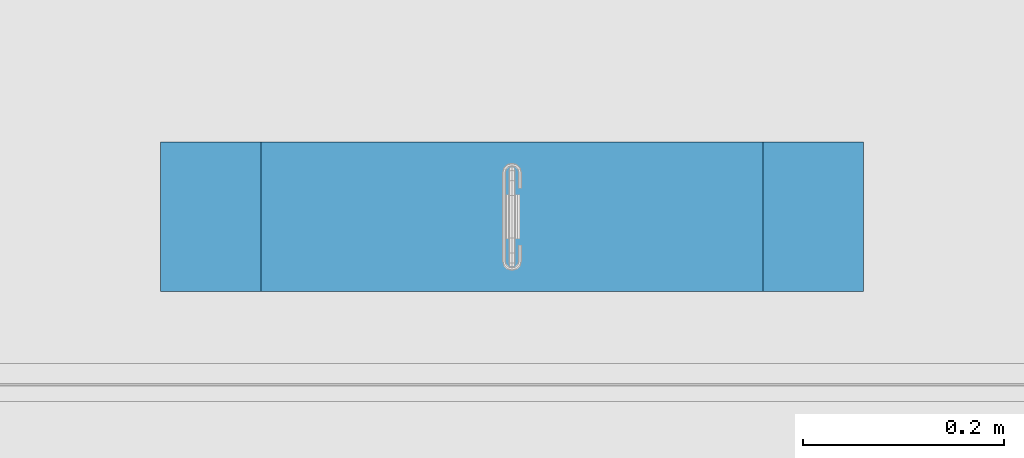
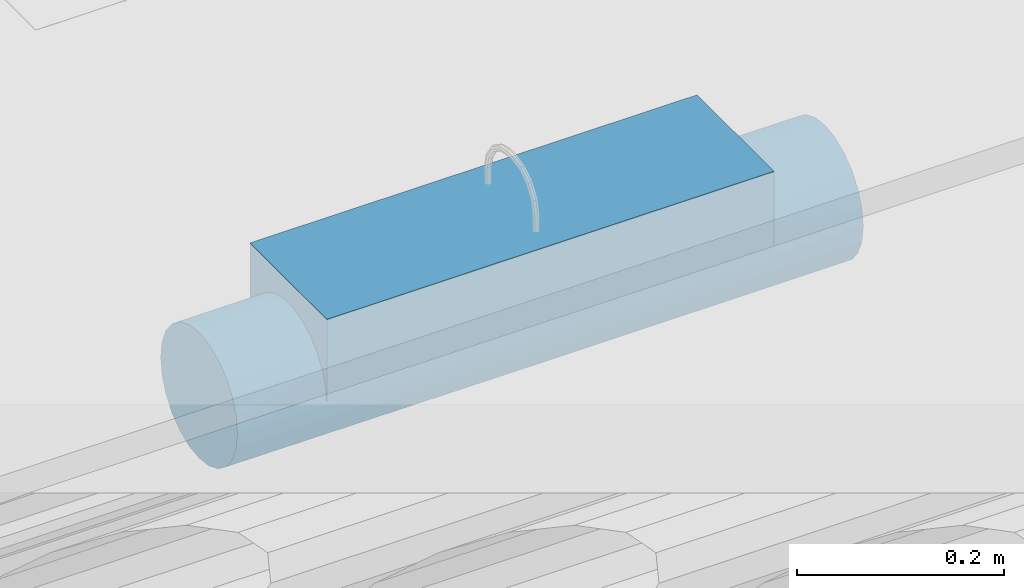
# One storey, part 154 of 230: 1 beam.
"""IFC4X3_ADD2 building model written with IfcOpenShell, lengths in millimetres."""

from ifc_helpers import new_model, si_unit, direction, origin_with_axes, place, context, subcontext, project, spatial, polygons, element, save


model = new_model("IFC4X3_ADD2")

# Units and contexts
model_context = context("Model", 3, precision=1e-05, world=origin_with_axes(), true_north=direction((0.0, 1.0)))
body_context = subcontext(model_context, "Body", "Model", "MODEL_VIEW")
ifc_project = project(units=[si_unit("LENGTHUNIT", "METRE", prefix="MILLI"), si_unit("AREAUNIT", "SQUARE_METRE"), si_unit("VOLUMEUNIT", "CUBIC_METRE"), si_unit("PLANEANGLEUNIT", "RADIAN"), si_unit("TIMEUNIT", "SECOND"), si_unit("MASSUNIT", "GRAM")], contexts=[model_context])

# Site, building, storey
site_placement = place(None, origin_with_axes())
site = spatial("IfcSite", under=ifc_project, at=site_placement, Name="Site", CompositionType="ELEMENT")
building_placement = place(site_placement, origin_with_axes())
building = spatial("IfcBuilding", under=site, at=building_placement, Name="IFC Building Story")
storey_placement = place(building_placement, origin_with_axes())
storey = spatial("IfcBuildingStorey", under=building, at=storey_placement, Name="ETAGE 00 (0)", Elevation=0.0)

# Beam
beam_placement = place(storey_placement, origin_with_axes())
element("IfcBeam", 1, at=beam_placement, inside=storey, Name="ES44", ObjectType="500*149", context=body_context, shape_type="Tessellation", body=[
    polygons([(34166.189, 13927.96237108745, 4119.282015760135), (34266.189, 13928.33606303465, 4117.829011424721), (34166.189, 13930.50089702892, 4099.999996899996), (34166.189, 13920.51978961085, 4137.249996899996), (34266.189, 13921.96737190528, 4134.621871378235), (34266.189, 13898.32172160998, 4161.312294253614), (34166.189, 13908.68035222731, 4152.679452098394), (34166.189, 13893.25089702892, 4164.518889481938), (34266.189, 13882.4189617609, 4169.658706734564), (34166.189, 13875.28291588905, 4171.961470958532), (34266.189, 13911.76494883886, 4149.402633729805), (34266.189, 13930.50089702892, 4099.999993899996), (34266.189, 13864.98087993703, 4173.956807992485), (34166.189, 13856.00089702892, 4174.499996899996), (34266.189, 13847.02091412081, 4173.956807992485), (34166.189, 13836.71887816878, 4171.961470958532), (34166.189, 13818.75089702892, 4164.518889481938), (34266.189, 13829.58283229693, 4169.658706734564), (34166.189, 13791.48200444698, 4137.249996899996), (34166.189, 13784.03942297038, 4119.282015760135), (34266.189, 13790.03442215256, 4134.621871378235), (34266.189, 13800.23684521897, 4149.402633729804), (34166.189, 13803.32144183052, 4152.679452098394), (34266.189, 13813.68007244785, 4161.312294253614), (34266.189, 13783.66573102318, 4117.829011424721), (34166.189, 13781.50089702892, 4099.999996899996), (34266.189, 13781.50089702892, 4099.999993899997), (34266.189, 13930.50089702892, 4199.999993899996), (34266.189, 13781.50089702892, 4199.999993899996), (34766.189, 13781.50089702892, 4199.999993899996), (34766.189, 13930.50089702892, 4199.999993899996), (34766.189, 13781.50089702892, 4099.999993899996), (34766.189, 13783.66573102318, 4117.829011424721), (34766.189, 13790.03442215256, 4134.621871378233), (34766.189, 13800.23684521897, 4149.402633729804), (34766.189, 13813.68007244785, 4161.312294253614), (34766.189, 13829.58283229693, 4169.658706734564), (34766.189, 13847.02091412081, 4173.956807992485), (34766.189, 13864.98087993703, 4173.956807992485), (34766.189, 13882.4189617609, 4169.658706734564), (34766.189, 13898.32172160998, 4161.312294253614), (34766.189, 13911.76494883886, 4149.402633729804), (34766.189, 13921.96737190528, 4134.621871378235), (34766.189, 13928.33606303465, 4117.829011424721), (34766.189, 13930.50089702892, 4099.999993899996), (34866.189, 13791.48200444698, 4062.749996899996), (34866.189, 13803.32144183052, 4047.320541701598), (34866.189, 13818.75089702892, 4035.481104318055), (34866.189, 13836.71887816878, 4028.038522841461), (34866.189, 13856.00089702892, 4025.499996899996), (34866.189, 13875.28291588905, 4028.038522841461), (34866.189, 13893.25089702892, 4035.481104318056), (34866.189, 13908.68035222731, 4047.320541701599), (34866.189, 13920.51978961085, 4062.749996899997), (34866.189, 13927.96237108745, 4080.717978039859), (34866.189, 13930.50089702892, 4099.999996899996), (34866.189, 13927.96237108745, 4119.282015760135), (34866.189, 13920.51978961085, 4137.249996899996), (34866.189, 13908.68035222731, 4152.679452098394), (34866.189, 13893.25089702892, 4164.518889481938), (34866.189, 13875.28291588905, 4171.961470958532), (34866.189, 13856.00089702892, 4174.499996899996), (34866.189, 13836.71887816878, 4171.961470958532), (34866.189, 13818.75089702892, 4164.518889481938), (34866.189, 13803.32144183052, 4152.679452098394), (34866.189, 13791.48200444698, 4137.249996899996), (34866.189, 13784.03942297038, 4119.282015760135), (34866.189, 13781.50089702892, 4099.999996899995), (34866.189, 13784.03942297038, 4080.717978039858), (34166.189, 13920.51978961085, 4062.749996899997), (34166.189, 13908.68035222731, 4047.320541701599), (34166.189, 13893.25089702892, 4035.481104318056), (34166.189, 13875.28291588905, 4028.038522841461), (34166.189, 13856.00089702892, 4025.499996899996), (34166.189, 13836.71887816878, 4028.038522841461), (34166.189, 13818.75089702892, 4035.481104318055), (34166.189, 13803.32144183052, 4047.320541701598), (34166.189, 13791.48200444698, 4062.749996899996), (34166.189, 13784.03942297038, 4080.717978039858), (34166.189, 13927.96237108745, 4080.717978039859), (34516.189, 13787.1718718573, 4071.490081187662), (34516.189, 13827.49098131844, 4031.170971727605), (34516.189, 13810.64817056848, 4040.895173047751), (34516.189, 13796.89607317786, 4054.647270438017), (34516.189, 13846.27669570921, 4026.137354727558), (34516.189, 13782.6842439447, 4086.774325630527), (34516.189, 13865.72509835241, 4026.137354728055), (34516.189, 13884.51081274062, 4031.170971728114), (34516.189, 13929.31755011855, 4086.774325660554), (34516.189, 13901.35362349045, 4040.895173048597), (34516.189, 13915.10572088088, 4054.647270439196), (34516.189, 13924.82992220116, 4071.490081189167)], [[[1, 2, 3]], [[4, 5, 1]], [[6, 7, 8]], [[9, 8, 10]], [[7, 11, 4]], [[1, 5, 2]], [[2, 12, 3]], [[6, 11, 7]], [[9, 6, 8]], [[10, 13, 9]], [[11, 5, 4]], [[10, 14, 13]], [[15, 14, 16]], [[17, 18, 16]], [[19, 20, 21]], [[22, 23, 19]], [[24, 17, 23]], [[25, 20, 26]], [[16, 18, 15]], [[17, 24, 18]], [[23, 22, 24]], [[19, 21, 22]], [[25, 21, 20]], [[26, 27, 25]], [[14, 15, 13]], [[28, 29, 30, 31]], [[44, 45, 31]], [[31, 43, 44]], [[31, 42, 43]], [[31, 41, 42]], [[31, 40, 41]], [[31, 39, 40]], [[31, 30, 38]], [[31, 38, 39]], [[30, 37, 38]], [[30, 36, 37]], [[30, 35, 36]], [[30, 34, 35]], [[30, 33, 34]], [[30, 32, 33]], [[28, 31, 45, 12]], [[25, 27, 29]], [[29, 21, 25]], [[29, 22, 21]], [[29, 24, 22]], [[29, 18, 24]], [[29, 15, 18]], [[29, 28, 13]], [[29, 13, 15]], [[28, 9, 13]], [[28, 6, 9]], [[28, 11, 6]], [[28, 5, 11]], [[28, 2, 5]], [[28, 12, 2]], [[30, 29, 27, 32]], [[46, 47, 48]], [[46, 48, 49]], [[46, 49, 50]], [[46, 50, 51]], [[46, 51, 52]], [[46, 52, 53]], [[46, 53, 54]], [[46, 54, 55]], [[46, 55, 56]], [[46, 56, 57]], [[46, 57, 58]], [[46, 58, 59]], [[46, 59, 60]], [[46, 60, 61]], [[46, 61, 62]], [[46, 62, 63]], [[46, 63, 64]], [[46, 64, 65]], [[46, 65, 66]], [[46, 66, 67]], [[46, 67, 68]], [[46, 68, 69]], [[70, 71, 72]], [[70, 72, 73]], [[70, 73, 74]], [[70, 74, 75]], [[70, 75, 76]], [[70, 76, 77]], [[70, 77, 78]], [[70, 78, 79]], [[70, 79, 26]], [[70, 26, 20]], [[70, 20, 19]], [[70, 19, 23]], [[70, 23, 17]], [[70, 17, 16]], [[70, 16, 14]], [[70, 14, 10]], [[70, 10, 8]], [[70, 8, 7]], [[70, 7, 4]], [[70, 4, 1]], [[70, 1, 3]], [[70, 3, 80]], [[43, 57, 44]], [[42, 58, 43]], [[40, 60, 41]], [[42, 41, 59]], [[61, 40, 39]], [[44, 56, 45]], [[44, 57, 56]], [[58, 42, 59]], [[41, 60, 59]], [[57, 43, 58]], [[40, 61, 60]], [[39, 62, 61]], [[37, 36, 64]], [[38, 37, 63]], [[35, 34, 66]], [[33, 32, 68]], [[34, 33, 67]], [[36, 35, 65]], [[37, 64, 63]], [[63, 62, 38]], [[64, 36, 65]], [[35, 66, 65]], [[67, 66, 34]], [[67, 33, 68]], [[38, 62, 39]], [[27, 26, 79]], [[78, 81, 79]], [[76, 75, 82]], [[83, 77, 76]], [[84, 78, 77]], [[85, 75, 74]], [[27, 86, 32]], [[86, 81, 69]], [[84, 83, 47]], [[69, 68, 32]], [[81, 86, 79]], [[83, 76, 82]], [[81, 84, 46]], [[46, 69, 81]], [[82, 85, 49]], [[47, 46, 84]], [[47, 83, 48]], [[85, 74, 87]], [[49, 48, 82]], [[84, 77, 83]], [[50, 49, 85]], [[83, 82, 48]], [[72, 88, 73]], [[12, 89, 80]], [[27, 79, 86]], [[71, 90, 72]], [[80, 3, 12]], [[87, 50, 85]], [[71, 70, 91]], [[80, 92, 70]], [[82, 75, 85]], [[88, 87, 73]], [[32, 86, 69]], [[89, 12, 45]], [[87, 88, 51]], [[88, 52, 51]], [[88, 90, 52]], [[52, 90, 53]], [[51, 50, 87]], [[90, 71, 91]], [[55, 54, 92]], [[53, 91, 54]], [[92, 80, 89]], [[56, 55, 45]], [[81, 78, 84]], [[90, 91, 53]], [[55, 92, 89]], [[91, 70, 92]], [[91, 92, 54]], [[87, 74, 73]], [[45, 55, 89]], [[88, 72, 90]]]),
])

save(model, "model.ifc")
